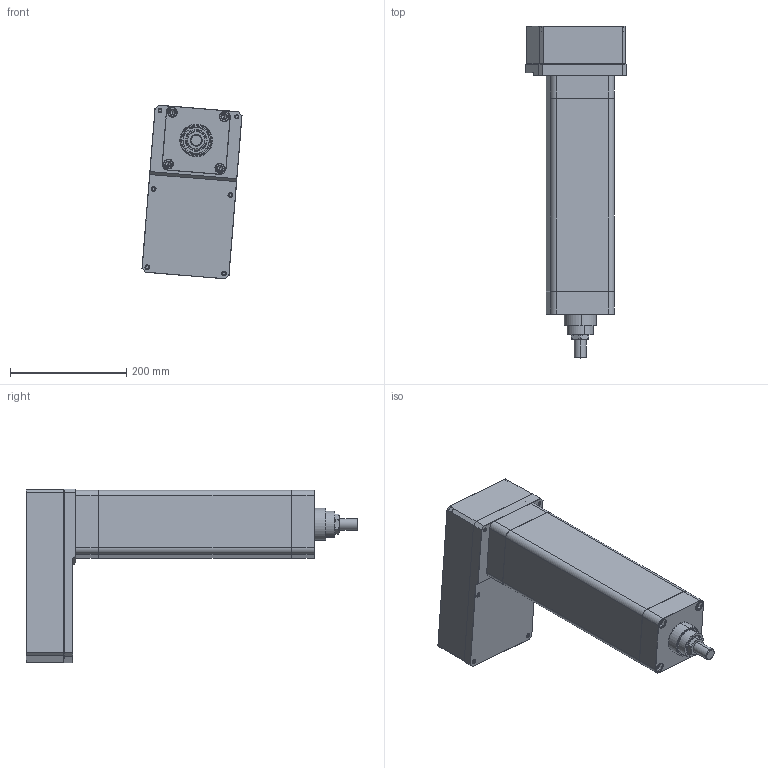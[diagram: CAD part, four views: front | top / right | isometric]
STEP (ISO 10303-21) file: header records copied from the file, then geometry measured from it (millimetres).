
FILE_DESCRIPTION (( 'STEP AP203' ), '1' );
FILE_NAME ('CS100Rv200.STEP', '2012-02-06T22:20:00', ( 'Admin' ), ( '' ), 'SwSTEP 2.0', 'SolidWorks 2007', '' );
FILE_SCHEMA (( 'CONFIG_CONTROL_DESIGN' ));
Length unit declared in the file: millimetre
Products named in the file (12): CS100BsNaselloINOX; CS100RvCoperchio; BV10ViteDoppia; CS100RvPiastraMotore; CS100Rv200; CS100BsCorpo200; CPH100CeTestataPosteriore; CS100BsTestataAnteriore; CS100BsBoccolaGuida; DM100BsSteloCromato; M8x70Testa-Cilin-Esag-Incas; M20x1.5Basso
Assembly tree (23 placements, depth 2):
  CS100Rv200
    M8x70Testa-Cilin-Esag-Incas  x6
    M20x1.5Basso
    BV10ViteDoppia  x8
    DM100BsSteloCromato
    CPH100CeTestataPosteriore
    CS100BsCorpo200
    CS100RvPiastraMotore
    CS100RvCoperchio
    CS100BsTestataAnteriore
    CS100BsNaselloINOX
    CS100BsBoccolaGuida
Bounding box: 171.91 x 570 x 298.25 mm (x, y, z)
Volume: 4180368.7 mm3; surface area: 778415.2 mm2
Topology: 23 solids, 23 shells, 1142 faces, 2446 edges, 1398 vertices
Faces by surface type: plane 384, cone 352, cylinder 300, torus 106
Entity records: 20286 total; most frequent: DIRECTION 3606, CARTESIAN_POINT 3197, ORIENTED_EDGE 2952, EDGE_CURVE 1476, AXIS2_PLACEMENT_3D 1443, VERTEX_POINT 850, EDGE_LOOP 796, CIRCLE 734
